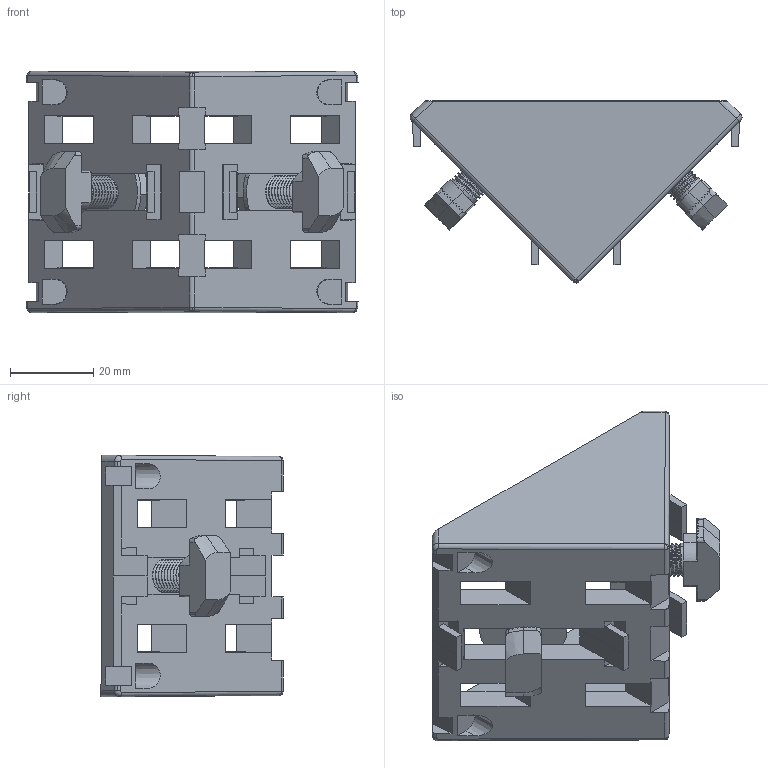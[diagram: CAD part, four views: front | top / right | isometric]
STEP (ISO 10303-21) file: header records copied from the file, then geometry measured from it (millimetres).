
FILE_DESCRIPTION (( 'STEP AP203' ), '1' );
FILE_NAME ('32107001_Winkel 60x60 Nut 10 mit Bef.-Satz.step', '2022-05-12T06:48:25', ( '' ), ( '' ), 'SwSTEP 2.0', 'SolidWorks 2021', '' );
FILE_SCHEMA (( 'CONFIG_CONTROL_DESIGN' ));
Length unit declared in the file: millimetre
Products named in the file (4): 32107000 Winkel 60x60 Nut 10; 999307 Bundmutter M8 Ø21; 999314 Hammerschraube M8x20; 32107001_Winkel 60x60 Nut 10 mit Bef.-Satz
Assembly tree (5 placements, depth 2):
  32107001_Winkel 60x60 Nut 10 mit Bef.-Satz
    32107000 Winkel 60x60 Nut 10
    999314 Hammerschraube M8x20  x2
    999307 Bundmutter M8 Ø21  x2
Bounding box: 79.8 x 43.77 x 58.07 mm (x, y, z)
Volume: 48881.4 mm3; surface area: 25439.9 mm2
Topology: 5 solids, 5 shells, 423 faces, 1188 edges, 778 vertices
Faces by surface type: plane 241, cylinder 144, cone 18, bspline 16, sphere 4
Entity records: 13700 total; most frequent: CARTESIAN_POINT 6293, ORIENTED_EDGE 1634, DIRECTION 1224, EDGE_CURVE 817, VECTOR 554, LINE 554, VERTEX_POINT 535, AXIS2_PLACEMENT_3D 335
